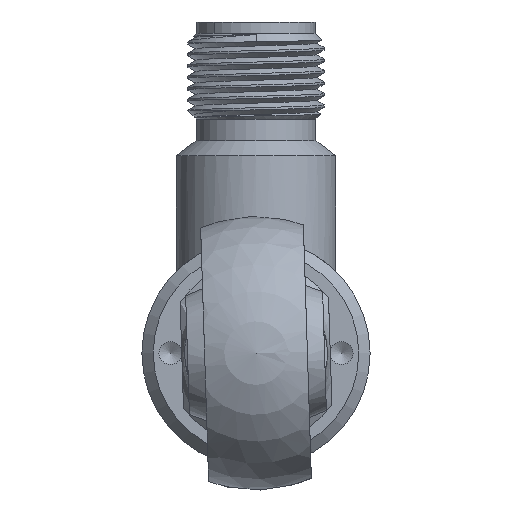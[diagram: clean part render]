
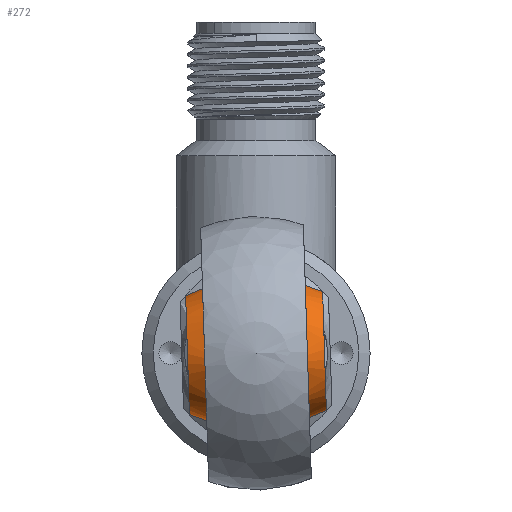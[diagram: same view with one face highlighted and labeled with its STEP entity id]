
A CAD part, left-side view. The second image highlights one B-rep face of the part: STEP entity #272.
In plain terms, the highlighted free-form (B-spline) face has degree [3, 3] with [4, 7] control points.
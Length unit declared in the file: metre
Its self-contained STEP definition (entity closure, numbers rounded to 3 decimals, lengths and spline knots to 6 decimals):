
#272 = ADVANCED_FACE( '', ( #586, #587 ), #588, .T. );
#586 = FACE_OUTER_BOUND( '', #1026, .T. );
#587 = FACE_OUTER_BOUND( '', #1027, .T. );
#588 = ( B_SPLINE_SURFACE( 3, 3, ( ( #1029, #1030, #1031, #1032, #1033, #1034, #1035 ), ( #1036, #1037, #1038, #1039, #1040, #1041, #1042 ), ( #1043, #1044, #1045, #1046, #1047, #1048, #1049 ), ( #1050, #1051, #1052, #1053, #1054, #1055, #1056 ) ), .UNSPECIFIED., .F., .T., .F. )B_SPLINE_SURFACE_WITH_KNOTS( ( 4, 4 ), ( 4, 3, 4 ), ( 0., 6.283185 ), ( -0.582914, 0., 0.582914 ), .UNSPECIFIED. )RATIONAL_B_SPLINE_SURFACE( ( ( 1., 0.333, 0.333, 1., 0.333, 0.333, 1. ), ( 0.89, 0.297, 0.297, 0.89, 0.297, 0.297, 0.89 ), ( 0.89, 0.297, 0.297, 0.89, 0.297, 0.297, 0.89 ), ( 1., 0.333, 0.333, 1., 0.333, 0.333, 1. ) ) )BOUNDED_SURFACE(  )REPRESENTATION_ITEM( '' )GEOMETRIC_REPRESENTATION_ITEM(  )SURFACE(  ) );
#1026 = EDGE_LOOP( '', ( #2823 ) );
#1027 = EDGE_LOOP( '', ( #2824 ) );
#1029 = CARTESIAN_POINT( '', ( -0.224857, 0.006021, 0.00058 ) );
#1030 = CARTESIAN_POINT( '', ( -0.223318, 0.005697, -0.0097 ) );
#1031 = CARTESIAN_POINT( '', ( -0.233603, 0.005648, -0.011239 ) );
#1032 = CARTESIAN_POINT( '', ( -0.235143, 0.005973, -0.000959 ) );
#1033 = CARTESIAN_POINT( '', ( -0.236682, 0.006297, 0.009322 ) );
#1034 = CARTESIAN_POINT( '', ( -0.226397, 0.006346, 0.01086 ) );
#1035 = CARTESIAN_POINT( '', ( -0.224857, 0.006021, 0.00058 ) );
#1036 = CARTESIAN_POINT( '', ( -0.22241, 0.002282, 0.001065 ) );
#1037 = CARTESIAN_POINT( '', ( -0.220138, 0.001803, -0.014107 ) );
#1038 = CARTESIAN_POINT( '', ( -0.235318, 0.001732, -0.016378 ) );
#1039 = CARTESIAN_POINT( '', ( -0.23759, 0.00221, -0.001206 ) );
#1040 = CARTESIAN_POINT( '', ( -0.239862, 0.002689, 0.013965 ) );
#1041 = CARTESIAN_POINT( '', ( -0.224682, 0.002761, 0.016236 ) );
#1042 = CARTESIAN_POINT( '', ( -0.22241, 0.002282, 0.001065 ) );
#1043 = CARTESIAN_POINT( '', ( -0.22241, -0.00221, 0.001206 ) );
#1044 = CARTESIAN_POINT( '', ( -0.220138, -0.002689, -0.013965 ) );
#1045 = CARTESIAN_POINT( '', ( -0.235318, -0.002761, -0.016236 ) );
#1046 = CARTESIAN_POINT( '', ( -0.23759, -0.002282, -0.001065 ) );
#1047 = CARTESIAN_POINT( '', ( -0.239862, -0.001803, 0.014107 ) );
#1048 = CARTESIAN_POINT( '', ( -0.224682, -0.001732, 0.016378 ) );
#1049 = CARTESIAN_POINT( '', ( -0.22241, -0.00221, 0.001206 ) );
#1050 = CARTESIAN_POINT( '', ( -0.224857, -0.005973, 0.000959 ) );
#1051 = CARTESIAN_POINT( '', ( -0.223318, -0.006297, -0.009322 ) );
#1052 = CARTESIAN_POINT( '', ( -0.233603, -0.006346, -0.01086 ) );
#1053 = CARTESIAN_POINT( '', ( -0.235143, -0.006021, -0.00058 ) );
#1054 = CARTESIAN_POINT( '', ( -0.236682, -0.005697, 0.0097 ) );
#1055 = CARTESIAN_POINT( '', ( -0.226397, -0.005648, 0.011239 ) );
#1056 = CARTESIAN_POINT( '', ( -0.224857, -0.005973, 0.000959 ) );
#2823 = ORIENTED_EDGE( '', *, *, #3542, .F. );
#2824 = ORIENTED_EDGE( '', *, *, #3543, .T. );
#3542 = EDGE_CURVE( '', #4157, #4157, #4158, .T. );
#3543 = EDGE_CURVE( '', #4159, #4159, #4160, .T. );
#4157 = VERTEX_POINT( '', #6247 );
#4158 = CIRCLE( '', #6248, 0.0052 );
#4159 = VERTEX_POINT( '', #6249 );
#4160 = CIRCLE( '', #6250, 0.0052 );
#6247 = CARTESIAN_POINT( '', ( -0.224857, 0.006021, 0.00058 ) );
#6248 = AXIS2_PLACEMENT_3D( '', #9468, #9469, #9470 );
#6249 = CARTESIAN_POINT( '', ( -0.224857, -0.005973, 0.000959 ) );
#6250 = AXIS2_PLACEMENT_3D( '', #9471, #9472, #9473 );
#9468 = CARTESIAN_POINT( '', ( -0.23, 0.005997, -0.000189 ) );
#9469 = DIRECTION( '', ( 0., 1., -0.032 ) );
#9470 = DIRECTION( '', ( 0.989, 0.005, 0.148 ) );
#9471 = CARTESIAN_POINT( '', ( -0.23, -0.005997, 0.000189 ) );
#9472 = DIRECTION( '', ( 0., 1., -0.032 ) );
#9473 = DIRECTION( '', ( 0.989, 0.005, 0.148 ) );
